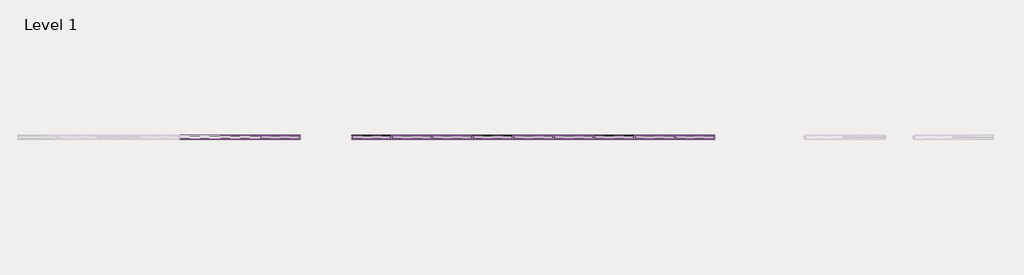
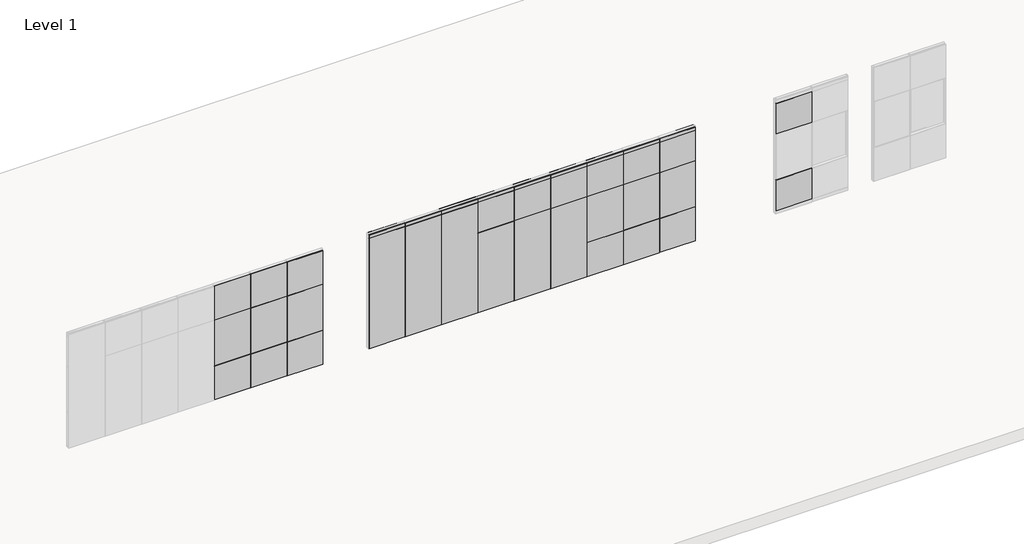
# One storey, part 10 of 22: 107 proxies.
"""IFC4 building model written with IfcOpenShell, lengths in millimetres."""

from ifc_helpers import new_model, si_unit, origin, place, context, project, spatial, transform, mapped, element, save
from components import fascia_teknion_ceiling_and_base_fpb1_3f1045f8, fascia_teknion_ceiling_and_base_fpb1_9cc94717, fascia_teknion_ceiling_and_base_fpb1_fca0640a, fascia_teknion_ceiling_and_base_fpb1_76749516, frame_teknion_horizontal_rail_5872ae1a, frame_teknion_horizontal_rail_46ee653b, level_ii_d92933f0, level_ii_d9937d3a, level_ii_c8f04d20, monolithic_level_i_b876e52f, monolithic_level_i_c985bec4, monolithic_level_i_d7025d32, panel_fascia_teknion_level_i_3c7f3a23, panel_fascia_teknion_level_iii_5cb2406b, segmented_monolithic_level_i_26a9d159, segmented_monolithic_level_i_932c30e3, segmented_level_i_235b6383, segmented_monolithic_level_ii_ef75357c, level_iii_17d9b208, segmented_level_ii_6dac37f0, working_wall_monolithic_level_i_ddfac440, working_wall_monolithic_level_i_759ace73, working_wall_monolithic_level_i_53c92298, working_wall_monolithic_level_i_fab2ca40, level_i_c1e683c6, working_wall_monolithic_level_iii_b79156b4, level_iii_d208549f, level_iii_3557bc1e

model = new_model("IFC4")

# Units and contexts
model_context = context("Model", 3, world=origin())
ifc_project = project(units=[si_unit("LENGTHUNIT", "METRE", prefix="MILLI")], contexts=[model_context])

# Site, building, storey
site = spatial("IfcSite", under=ifc_project)
building = spatial("IfcBuilding", under=site)
storey = spatial("IfcBuildingStorey", under=building, Name="Level 1", Elevation=0.0)

# Proxies
placement = place(None, origin())
fascia_teknion_ceiling_and_base_fpb1_shape = fascia_teknion_ceiling_and_base_fpb1_3f1045f8(model_context)
element("IfcBuildingElementProxy", 1, Name="Fascia-Teknion-Ceiling_and_Base : FPB1", ObjectType="Fascia-Teknion-Ceiling_and_Base : FPB1", at=placement, inside=storey, context=model_context, shape_type="MappedRepresentation", body=[
    mapped(fascia_teknion_ceiling_and_base_fpb1_shape, transform((-26761.682899, 1843.3402105, 15.875), x_axis=(-1.0, 0.0, 0.0), y_axis=(0.0, -1.0, 0.0), z_axis=(0.0, 0.0, 1.0))),
])
element("IfcBuildingElementProxy", 2, Name="Fascia-Teknion-Ceiling_and_Base : FPB1", ObjectType="Fascia-Teknion-Ceiling_and_Base : FPB1", at=placement, inside=storey, context=model_context, shape_type="MappedRepresentation", body=[
    mapped(fascia_teknion_ceiling_and_base_fpb1_shape, transform((-34062.8930552, 1843.3402105, 15.875), x_axis=(-1.0, 0.0, 0.0), y_axis=(0.0, -1.0, 0.0), z_axis=(0.0, 0.0, 1.0))),
])
fascia_teknion_ceiling_and_base_fpb1_2_shape = fascia_teknion_ceiling_and_base_fpb1_9cc94717(model_context)
element("IfcBuildingElementProxy", 3, Name="Fascia-Teknion-Ceiling_and_Base : FPB1", ObjectType="Fascia-Teknion-Ceiling_and_Base : FPB1", at=placement, inside=storey, context=model_context, shape_type="MappedRepresentation", body=[
    mapped(fascia_teknion_ceiling_and_base_fpb1_2_shape, transform((-33155.4879771, 1843.3402105, 15.875), x_axis=(-1.0, 0.0, 0.0), y_axis=(0.0, -1.0, 0.0), z_axis=(0.0, 0.0, 1.0))),
])
element("IfcBuildingElementProxy", 4, Name="Fascia-Teknion-Ceiling_and_Base : FPB1", ObjectType="Fascia-Teknion-Ceiling_and_Base : FPB1", at=placement, inside=storey, context=model_context, shape_type="MappedRepresentation", body=[
    mapped(fascia_teknion_ceiling_and_base_fpb1_2_shape, transform((-32241.0879771, 1843.3402105, 15.875), x_axis=(-1.0, 0.0, 0.0), y_axis=(0.0, -1.0, 0.0), z_axis=(0.0, 0.0, 1.0))),
])
element("IfcBuildingElementProxy", 5, Name="Fascia-Teknion-Ceiling_and_Base : FPB1", ObjectType="Fascia-Teknion-Ceiling_and_Base : FPB1", at=placement, inside=storey, context=model_context, shape_type="MappedRepresentation", body=[
    mapped(fascia_teknion_ceiling_and_base_fpb1_2_shape, transform((-30412.2879771, 1843.3402105, 15.875), x_axis=(-1.0, 0.0, 0.0), y_axis=(0.0, -1.0, 0.0), z_axis=(0.0, 0.0, 1.0))),
])
element("IfcBuildingElementProxy", 6, Name="Fascia-Teknion-Ceiling_and_Base : FPB1", ObjectType="Fascia-Teknion-Ceiling_and_Base : FPB1", at=placement, inside=storey, context=model_context, shape_type="MappedRepresentation", body=[
    mapped(fascia_teknion_ceiling_and_base_fpb1_2_shape, transform((-29497.8879771, 1843.3402105, 15.875), x_axis=(-1.0, 0.0, 0.0), y_axis=(0.0, -1.0, 0.0), z_axis=(0.0, 0.0, 1.0))),
])
element("IfcBuildingElementProxy", 7, Name="Fascia-Teknion-Ceiling_and_Base : FPB1", ObjectType="Fascia-Teknion-Ceiling_and_Base : FPB1", at=placement, inside=storey, context=model_context, shape_type="MappedRepresentation", body=[
    mapped(fascia_teknion_ceiling_and_base_fpb1_2_shape, transform((-27669.0879771, 1843.3402105, 15.875), x_axis=(-1.0, 0.0, 0.0), y_axis=(0.0, -1.0, 0.0), z_axis=(0.0, 0.0, 1.0))),
])
element("IfcBuildingElementProxy", 8, Name="Fascia-Teknion-Ceiling_and_Base : FPB1", ObjectType="Fascia-Teknion-Ceiling_and_Base : FPB1", at=placement, inside=storey, context=model_context, shape_type="MappedRepresentation", body=[
    mapped(fascia_teknion_ceiling_and_base_fpb1_2_shape, transform((-31326.6879771, 1843.3402105, 15.875), x_axis=(-1.0, 0.0, 0.0), y_axis=(0.0, -1.0, 0.0), z_axis=(0.0, 0.0, 1.0))),
])
element("IfcBuildingElementProxy", 9, Name="Fascia-Teknion-Ceiling_and_Base : FPB1", ObjectType="Fascia-Teknion-Ceiling_and_Base : FPB1", at=placement, inside=storey, context=model_context, shape_type="MappedRepresentation", body=[
    mapped(fascia_teknion_ceiling_and_base_fpb1_2_shape, transform((-28583.4879771, 1843.3402105, 15.875), x_axis=(-1.0, 0.0, 0.0), y_axis=(0.0, -1.0, 0.0), z_axis=(0.0, 0.0, 1.0))),
])
fascia_teknion_ceiling_and_base_fpb1_3_shape = fascia_teknion_ceiling_and_base_fpb1_fca0640a(model_context)
element("IfcBuildingElementProxy", 10, Name="Fascia-Teknion-Ceiling_and_Base : FPC", ObjectType="Fascia-Teknion-Ceiling_and_Base : FPC", at=placement, inside=storey, context=model_context, shape_type="MappedRepresentation", body=[
    mapped(fascia_teknion_ceiling_and_base_fpb1_3_shape, transform((-37035.5687444, 1843.3402105, 2950.845), x_axis=(1.0, 0.0, 0.0), y_axis=(0.0, 1.0, 0.0), z_axis=(0.0, 0.0, 1.0))),
])
element("IfcBuildingElementProxy", 11, Name="Fascia-Teknion-Ceiling_and_Base : FPC", ObjectType="Fascia-Teknion-Ceiling_and_Base : FPC", at=placement, inside=storey, context=model_context, shape_type="MappedRepresentation", body=[
    mapped(fascia_teknion_ceiling_and_base_fpb1_2_shape, transform((-31326.6879771, 1781.3642105, 2950.845), x_axis=(1.0, 0.0, 0.0), y_axis=(0.0, 1.0, 0.0), z_axis=(0.0, 0.0, 1.0))),
])
element("IfcBuildingElementProxy", 12, Name="Fascia-Teknion-Ceiling_and_Base : FPC", ObjectType="Fascia-Teknion-Ceiling_and_Base : FPC", at=placement, inside=storey, context=model_context, shape_type="MappedRepresentation", body=[
    mapped(fascia_teknion_ceiling_and_base_fpb1_2_shape, transform((-30412.2879771, 1781.3642105, 2950.845), x_axis=(1.0, 0.0, 0.0), y_axis=(0.0, 1.0, 0.0), z_axis=(0.0, 0.0, 1.0))),
])
element("IfcBuildingElementProxy", 13, Name="Fascia-Teknion-Ceiling_and_Base : FPC", ObjectType="Fascia-Teknion-Ceiling_and_Base : FPC", at=placement, inside=storey, context=model_context, shape_type="MappedRepresentation", body=[
    mapped(fascia_teknion_ceiling_and_base_fpb1_2_shape, transform((-29497.8879771, 1781.3642105, 2950.845), x_axis=(1.0, 0.0, 0.0), y_axis=(0.0, 1.0, 0.0), z_axis=(0.0, 0.0, 1.0))),
])
element("IfcBuildingElementProxy", 14, Name="Fascia-Teknion-Ceiling_and_Base : FPC", ObjectType="Fascia-Teknion-Ceiling_and_Base : FPC", at=placement, inside=storey, context=model_context, shape_type="MappedRepresentation", body=[
    mapped(fascia_teknion_ceiling_and_base_fpb1_2_shape, transform((-28583.4879771, 1781.3642105, 2950.845), x_axis=(1.0, 0.0, 0.0), y_axis=(0.0, 1.0, 0.0), z_axis=(0.0, 0.0, 1.0))),
])
element("IfcBuildingElementProxy", 15, Name="Fascia-Teknion-Ceiling_and_Base : FPC", ObjectType="Fascia-Teknion-Ceiling_and_Base : FPC", at=placement, inside=storey, context=model_context, shape_type="MappedRepresentation", body=[
    mapped(fascia_teknion_ceiling_and_base_fpb1_2_shape, transform((-27669.0879771, 1781.3642105, 2950.845), x_axis=(1.0, 0.0, 0.0), y_axis=(0.0, 1.0, 0.0), z_axis=(0.0, 0.0, 1.0))),
])
element("IfcBuildingElementProxy", 16, Name="Fascia-Teknion-Ceiling_and_Base : FPC", ObjectType="Fascia-Teknion-Ceiling_and_Base : FPC", at=placement, inside=storey, context=model_context, shape_type="MappedRepresentation", body=[
    mapped(fascia_teknion_ceiling_and_base_fpb1_2_shape, transform((-33155.4879771, 1781.3642105, 2950.845), x_axis=(1.0, 0.0, 0.0), y_axis=(0.0, 1.0, 0.0), z_axis=(0.0, 0.0, 1.0))),
])
element("IfcBuildingElementProxy", 17, Name="Fascia-Teknion-Ceiling_and_Base : FPC", ObjectType="Fascia-Teknion-Ceiling_and_Base : FPC", at=placement, inside=storey, context=model_context, shape_type="MappedRepresentation", body=[
    mapped(fascia_teknion_ceiling_and_base_fpb1_2_shape, transform((-32241.0879771, 1781.3642105, 2950.845), x_axis=(1.0, 0.0, 0.0), y_axis=(0.0, 1.0, 0.0), z_axis=(0.0, 0.0, 1.0))),
])
fascia_teknion_ceiling_and_base_fpb1_4_shape = fascia_teknion_ceiling_and_base_fpb1_76749516(model_context)
element("IfcBuildingElementProxy", 18, Name="Fascia-Teknion-Ceiling_and_Base : FPC", ObjectType="Fascia-Teknion-Ceiling_and_Base : FPC", at=placement, inside=storey, context=model_context, shape_type="MappedRepresentation", body=[
    mapped(fascia_teknion_ceiling_and_base_fpb1_4_shape, transform((-36128.1636663, 1843.3402105, 2950.845), x_axis=(1.0, 0.0, 0.0), y_axis=(0.0, 1.0, 0.0), z_axis=(0.0, 0.0, 1.0))),
])
element("IfcBuildingElementProxy", 19, Name="Fascia-Teknion-Ceiling_and_Base : FPC", ObjectType="Fascia-Teknion-Ceiling_and_Base : FPC", at=placement, inside=storey, context=model_context, shape_type="MappedRepresentation", body=[
    mapped(fascia_teknion_ceiling_and_base_fpb1_shape, transform((-26761.682899, 1781.3642105, 2950.845), x_axis=(1.0, 0.0, 0.0), y_axis=(0.0, 1.0, 0.0), z_axis=(0.0, 0.0, 1.0))),
])
element("IfcBuildingElementProxy", 20, Name="Fascia-Teknion-Ceiling_and_Base : FPC", ObjectType="Fascia-Teknion-Ceiling_and_Base : FPC", at=placement, inside=storey, context=model_context, shape_type="MappedRepresentation", body=[
    mapped(fascia_teknion_ceiling_and_base_fpb1_shape, transform((-34062.8930552, 1781.3642105, 2950.845), x_axis=(1.0, 0.0, 0.0), y_axis=(0.0, 1.0, 0.0), z_axis=(0.0, 0.0, 1.0))),
])
frame_teknion_horizontal_rail_shape = frame_teknion_horizontal_rail_5872ae1a(model_context)
element("IfcBuildingElementProxy", 21, Name="Frame-Teknion-Horizontal_Rail : FPKK", ObjectType="Frame-Teknion-Horizontal_Rail : FPKK", at=placement, inside=storey, context=model_context, shape_type="MappedRepresentation", body=[
    mapped(frame_teknion_horizontal_rail_shape, transform((-34062.8930552, 1812.3522105, 100.457), x_axis=(1.0, 0.0, 0.0), y_axis=(0.0, 1.0, 0.0), z_axis=(0.0, 0.0, 1.0))),
])
element("IfcBuildingElementProxy", 22, Name="Frame-Teknion-Horizontal_Rail : FPKK", ObjectType="Frame-Teknion-Horizontal_Rail : FPKK", at=placement, inside=storey, context=model_context, shape_type="MappedRepresentation", body=[
    mapped(frame_teknion_horizontal_rail_shape, transform((-34062.8930552, 1812.3522105, 2949.1305), x_axis=(1.0, 0.0, 0.0), y_axis=(0.0, 1.0, 0.0), z_axis=(0.0, 0.0, 1.0))),
])
element("IfcBuildingElementProxy", 23, Name="Frame-Teknion-Horizontal_Rail : FPKK", ObjectType="Frame-Teknion-Horizontal_Rail : FPKK", at=placement, inside=storey, context=model_context, shape_type="MappedRepresentation", body=[
    mapped(frame_teknion_horizontal_rail_shape, transform((-36128.1636663, 1812.3522105, 917.575), x_axis=(1.0, 0.0, 0.0), y_axis=(0.0, 1.0, 0.0), z_axis=(0.0, 0.0, 1.0))),
])
element("IfcBuildingElementProxy", 24, Name="Frame-Teknion-Horizontal_Rail : FPKK", ObjectType="Frame-Teknion-Horizontal_Rail : FPKK", at=placement, inside=storey, context=model_context, shape_type="MappedRepresentation", body=[
    mapped(frame_teknion_horizontal_rail_shape, transform((-36128.1636663, 1812.3522105, 2136.775), x_axis=(1.0, 0.0, 0.0), y_axis=(0.0, 1.0, 0.0), z_axis=(0.0, 0.0, 1.0))),
])
element("IfcBuildingElementProxy", 25, Name="Frame-Teknion-Horizontal_Rail : FPKK", ObjectType="Frame-Teknion-Horizontal_Rail : FPKK", at=placement, inside=storey, context=model_context, shape_type="MappedRepresentation", body=[
    mapped(frame_teknion_horizontal_rail_shape, transform((-36128.1636663, 1812.3522105, 2949.1305), x_axis=(1.0, 0.0, 0.0), y_axis=(0.0, 1.0, 0.0), z_axis=(0.0, 0.0, 1.0))),
])
element("IfcBuildingElementProxy", 26, Name="Frame-Teknion-Horizontal_Rail : FPKK", ObjectType="Frame-Teknion-Horizontal_Rail : FPKK", at=placement, inside=storey, context=model_context, shape_type="MappedRepresentation", body=[
    mapped(frame_teknion_horizontal_rail_shape, transform((-26761.682899, 1812.3522105, 917.575), x_axis=(1.0, 0.0, 0.0), y_axis=(0.0, 1.0, 0.0), z_axis=(0.0, 0.0, 1.0))),
])
element("IfcBuildingElementProxy", 27, Name="Frame-Teknion-Horizontal_Rail : FPKK", ObjectType="Frame-Teknion-Horizontal_Rail : FPKK", at=placement, inside=storey, context=model_context, shape_type="MappedRepresentation", body=[
    mapped(frame_teknion_horizontal_rail_shape, transform((-26761.682899, 1812.3522105, 2136.775), x_axis=(1.0, 0.0, 0.0), y_axis=(0.0, 1.0, 0.0), z_axis=(0.0, 0.0, 1.0))),
])
element("IfcBuildingElementProxy", 28, Name="Frame-Teknion-Horizontal_Rail : FPKK", ObjectType="Frame-Teknion-Horizontal_Rail : FPKK", at=placement, inside=storey, context=model_context, shape_type="MappedRepresentation", body=[
    mapped(frame_teknion_horizontal_rail_shape, transform((-26761.682899, 1812.3522105, 100.457), x_axis=(1.0, 0.0, 0.0), y_axis=(0.0, 1.0, 0.0), z_axis=(0.0, 0.0, 1.0))),
])
element("IfcBuildingElementProxy", 29, Name="Frame-Teknion-Horizontal_Rail : FPKK", ObjectType="Frame-Teknion-Horizontal_Rail : FPKK", at=placement, inside=storey, context=model_context, shape_type="MappedRepresentation", body=[
    mapped(frame_teknion_horizontal_rail_shape, transform((-26761.682899, 1812.3522105, 2949.1305), x_axis=(1.0, 0.0, 0.0), y_axis=(0.0, 1.0, 0.0), z_axis=(0.0, 0.0, 1.0))),
])
frame_teknion_horizontal_rail_2_shape = frame_teknion_horizontal_rail_46ee653b(model_context)
element("IfcBuildingElementProxy", 30, Name="Frame-Teknion-Horizontal_Rail : FPKK", ObjectType="Frame-Teknion-Horizontal_Rail : FPKK", at=placement, inside=storey, context=model_context, shape_type="MappedRepresentation", body=[
    mapped(frame_teknion_horizontal_rail_2_shape, transform((-33155.4879771, 1812.3522105, 2136.775), x_axis=(1.0, 0.0, 0.0), y_axis=(0.0, 1.0, 0.0), z_axis=(0.0, 0.0, 1.0))),
])
element("IfcBuildingElementProxy", 31, Name="Frame-Teknion-Horizontal_Rail : FPKK", ObjectType="Frame-Teknion-Horizontal_Rail : FPKK", at=placement, inside=storey, context=model_context, shape_type="MappedRepresentation", body=[
    mapped(frame_teknion_horizontal_rail_2_shape, transform((-33155.4879771, 1812.3522105, 100.457), x_axis=(1.0, 0.0, 0.0), y_axis=(0.0, 1.0, 0.0), z_axis=(0.0, 0.0, 1.0))),
])
element("IfcBuildingElementProxy", 32, Name="Frame-Teknion-Horizontal_Rail : FPKK", ObjectType="Frame-Teknion-Horizontal_Rail : FPKK", at=placement, inside=storey, context=model_context, shape_type="MappedRepresentation", body=[
    mapped(frame_teknion_horizontal_rail_2_shape, transform((-33155.4879771, 1812.3522105, 2949.1305), x_axis=(1.0, 0.0, 0.0), y_axis=(0.0, 1.0, 0.0), z_axis=(0.0, 0.0, 1.0))),
])
element("IfcBuildingElementProxy", 33, Name="Frame-Teknion-Horizontal_Rail : FPKK", ObjectType="Frame-Teknion-Horizontal_Rail : FPKK", at=placement, inside=storey, context=model_context, shape_type="MappedRepresentation", body=[
    mapped(frame_teknion_horizontal_rail_2_shape, transform((-32241.0879771, 1812.3522105, 917.575), x_axis=(1.0, 0.0, 0.0), y_axis=(0.0, 1.0, 0.0), z_axis=(0.0, 0.0, 1.0))),
])
element("IfcBuildingElementProxy", 34, Name="Frame-Teknion-Horizontal_Rail : FPKK", ObjectType="Frame-Teknion-Horizontal_Rail : FPKK", at=placement, inside=storey, context=model_context, shape_type="MappedRepresentation", body=[
    mapped(frame_teknion_horizontal_rail_2_shape, transform((-32241.0879771, 1812.3522105, 2136.775), x_axis=(1.0, 0.0, 0.0), y_axis=(0.0, 1.0, 0.0), z_axis=(0.0, 0.0, 1.0))),
])
element("IfcBuildingElementProxy", 35, Name="Frame-Teknion-Horizontal_Rail : FPKK", ObjectType="Frame-Teknion-Horizontal_Rail : FPKK", at=placement, inside=storey, context=model_context, shape_type="MappedRepresentation", body=[
    mapped(frame_teknion_horizontal_rail_2_shape, transform((-32241.0879771, 1812.3522105, 100.457), x_axis=(1.0, 0.0, 0.0), y_axis=(0.0, 1.0, 0.0), z_axis=(0.0, 0.0, 1.0))),
])
element("IfcBuildingElementProxy", 36, Name="Frame-Teknion-Horizontal_Rail : FPKK", ObjectType="Frame-Teknion-Horizontal_Rail : FPKK", at=placement, inside=storey, context=model_context, shape_type="MappedRepresentation", body=[
    mapped(frame_teknion_horizontal_rail_2_shape, transform((-32241.0879771, 1812.3522105, 2949.1305), x_axis=(1.0, 0.0, 0.0), y_axis=(0.0, 1.0, 0.0), z_axis=(0.0, 0.0, 1.0))),
])
element("IfcBuildingElementProxy", 37, Name="Frame-Teknion-Horizontal_Rail : FPKK", ObjectType="Frame-Teknion-Horizontal_Rail : FPKK", at=placement, inside=storey, context=model_context, shape_type="MappedRepresentation", body=[
    mapped(frame_teknion_horizontal_rail_2_shape, transform((-31326.6879771, 1812.3522105, 2136.775), x_axis=(1.0, 0.0, 0.0), y_axis=(0.0, 1.0, 0.0), z_axis=(0.0, 0.0, 1.0))),
])
element("IfcBuildingElementProxy", 38, Name="Frame-Teknion-Horizontal_Rail : FPKK", ObjectType="Frame-Teknion-Horizontal_Rail : FPKK", at=placement, inside=storey, context=model_context, shape_type="MappedRepresentation", body=[
    mapped(frame_teknion_horizontal_rail_2_shape, transform((-31326.6879771, 1812.3522105, 100.457), x_axis=(1.0, 0.0, 0.0), y_axis=(0.0, 1.0, 0.0), z_axis=(0.0, 0.0, 1.0))),
])
element("IfcBuildingElementProxy", 39, Name="Frame-Teknion-Horizontal_Rail : FPKK", ObjectType="Frame-Teknion-Horizontal_Rail : FPKK", at=placement, inside=storey, context=model_context, shape_type="MappedRepresentation", body=[
    mapped(frame_teknion_horizontal_rail_2_shape, transform((-31326.6879771, 1812.3522105, 2949.1305), x_axis=(1.0, 0.0, 0.0), y_axis=(0.0, 1.0, 0.0), z_axis=(0.0, 0.0, 1.0))),
])
element("IfcBuildingElementProxy", 40, Name="Frame-Teknion-Horizontal_Rail : FPKK", ObjectType="Frame-Teknion-Horizontal_Rail : FPKK", at=placement, inside=storey, context=model_context, shape_type="MappedRepresentation", body=[
    mapped(frame_teknion_horizontal_rail_2_shape, transform((-30412.2879771, 1812.3522105, 2136.775), x_axis=(1.0, 0.0, 0.0), y_axis=(0.0, 1.0, 0.0), z_axis=(0.0, 0.0, 1.0))),
])
element("IfcBuildingElementProxy", 41, Name="Frame-Teknion-Horizontal_Rail : FPKK", ObjectType="Frame-Teknion-Horizontal_Rail : FPKK", at=placement, inside=storey, context=model_context, shape_type="MappedRepresentation", body=[
    mapped(frame_teknion_horizontal_rail_2_shape, transform((-30412.2879771, 1812.3522105, 100.457), x_axis=(1.0, 0.0, 0.0), y_axis=(0.0, 1.0, 0.0), z_axis=(0.0, 0.0, 1.0))),
])
element("IfcBuildingElementProxy", 42, Name="Frame-Teknion-Horizontal_Rail : FPKK", ObjectType="Frame-Teknion-Horizontal_Rail : FPKK", at=placement, inside=storey, context=model_context, shape_type="MappedRepresentation", body=[
    mapped(frame_teknion_horizontal_rail_2_shape, transform((-30412.2879771, 1812.3522105, 2949.1305), x_axis=(1.0, 0.0, 0.0), y_axis=(0.0, 1.0, 0.0), z_axis=(0.0, 0.0, 1.0))),
])
element("IfcBuildingElementProxy", 43, Name="Frame-Teknion-Horizontal_Rail : FPKK", ObjectType="Frame-Teknion-Horizontal_Rail : FPKK", at=placement, inside=storey, context=model_context, shape_type="MappedRepresentation", body=[
    mapped(frame_teknion_horizontal_rail_2_shape, transform((-29497.8879771, 1812.3522105, 917.575), x_axis=(1.0, 0.0, 0.0), y_axis=(0.0, 1.0, 0.0), z_axis=(0.0, 0.0, 1.0))),
])
element("IfcBuildingElementProxy", 44, Name="Frame-Teknion-Horizontal_Rail : FPKK", ObjectType="Frame-Teknion-Horizontal_Rail : FPKK", at=placement, inside=storey, context=model_context, shape_type="MappedRepresentation", body=[
    mapped(frame_teknion_horizontal_rail_2_shape, transform((-29497.8879771, 1812.3522105, 2136.775), x_axis=(1.0, 0.0, 0.0), y_axis=(0.0, 1.0, 0.0), z_axis=(0.0, 0.0, 1.0))),
])
element("IfcBuildingElementProxy", 45, Name="Frame-Teknion-Horizontal_Rail : FPKK", ObjectType="Frame-Teknion-Horizontal_Rail : FPKK", at=placement, inside=storey, context=model_context, shape_type="MappedRepresentation", body=[
    mapped(frame_teknion_horizontal_rail_2_shape, transform((-29497.8879771, 1812.3522105, 100.457), x_axis=(1.0, 0.0, 0.0), y_axis=(0.0, 1.0, 0.0), z_axis=(0.0, 0.0, 1.0))),
])
element("IfcBuildingElementProxy", 46, Name="Frame-Teknion-Horizontal_Rail : FPKK", ObjectType="Frame-Teknion-Horizontal_Rail : FPKK", at=placement, inside=storey, context=model_context, shape_type="MappedRepresentation", body=[
    mapped(frame_teknion_horizontal_rail_2_shape, transform((-29497.8879771, 1812.3522105, 2949.1305), x_axis=(1.0, 0.0, 0.0), y_axis=(0.0, 1.0, 0.0), z_axis=(0.0, 0.0, 1.0))),
])
element("IfcBuildingElementProxy", 47, Name="Frame-Teknion-Horizontal_Rail : FPKK", ObjectType="Frame-Teknion-Horizontal_Rail : FPKK", at=placement, inside=storey, context=model_context, shape_type="MappedRepresentation", body=[
    mapped(frame_teknion_horizontal_rail_2_shape, transform((-28583.4879771, 1812.3522105, 917.575), x_axis=(1.0, 0.0, 0.0), y_axis=(0.0, 1.0, 0.0), z_axis=(0.0, 0.0, 1.0))),
])
element("IfcBuildingElementProxy", 48, Name="Frame-Teknion-Horizontal_Rail : FPKK", ObjectType="Frame-Teknion-Horizontal_Rail : FPKK", at=placement, inside=storey, context=model_context, shape_type="MappedRepresentation", body=[
    mapped(frame_teknion_horizontal_rail_2_shape, transform((-28583.4879771, 1812.3522105, 2136.775), x_axis=(1.0, 0.0, 0.0), y_axis=(0.0, 1.0, 0.0), z_axis=(0.0, 0.0, 1.0))),
])
element("IfcBuildingElementProxy", 49, Name="Frame-Teknion-Horizontal_Rail : FPKK", ObjectType="Frame-Teknion-Horizontal_Rail : FPKK", at=placement, inside=storey, context=model_context, shape_type="MappedRepresentation", body=[
    mapped(frame_teknion_horizontal_rail_2_shape, transform((-28583.4879771, 1812.3522105, 100.457), x_axis=(1.0, 0.0, 0.0), y_axis=(0.0, 1.0, 0.0), z_axis=(0.0, 0.0, 1.0))),
])
element("IfcBuildingElementProxy", 50, Name="Frame-Teknion-Horizontal_Rail : FPKK", ObjectType="Frame-Teknion-Horizontal_Rail : FPKK", at=placement, inside=storey, context=model_context, shape_type="MappedRepresentation", body=[
    mapped(frame_teknion_horizontal_rail_2_shape, transform((-28583.4879771, 1812.3522105, 2949.1305), x_axis=(1.0, 0.0, 0.0), y_axis=(0.0, 1.0, 0.0), z_axis=(0.0, 0.0, 1.0))),
])
element("IfcBuildingElementProxy", 51, Name="Frame-Teknion-Horizontal_Rail : FPKK", ObjectType="Frame-Teknion-Horizontal_Rail : FPKK", at=placement, inside=storey, context=model_context, shape_type="MappedRepresentation", body=[
    mapped(frame_teknion_horizontal_rail_2_shape, transform((-27669.0879771, 1812.3522105, 917.575), x_axis=(1.0, 0.0, 0.0), y_axis=(0.0, 1.0, 0.0), z_axis=(0.0, 0.0, 1.0))),
])
element("IfcBuildingElementProxy", 52, Name="Frame-Teknion-Horizontal_Rail : FPKK", ObjectType="Frame-Teknion-Horizontal_Rail : FPKK", at=placement, inside=storey, context=model_context, shape_type="MappedRepresentation", body=[
    mapped(frame_teknion_horizontal_rail_2_shape, transform((-27669.0879771, 1812.3522105, 2136.775), x_axis=(1.0, 0.0, 0.0), y_axis=(0.0, 1.0, 0.0), z_axis=(0.0, 0.0, 1.0))),
])
element("IfcBuildingElementProxy", 53, Name="Frame-Teknion-Horizontal_Rail : FPKK", ObjectType="Frame-Teknion-Horizontal_Rail : FPKK", at=placement, inside=storey, context=model_context, shape_type="MappedRepresentation", body=[
    mapped(frame_teknion_horizontal_rail_2_shape, transform((-27669.0879771, 1812.3522105, 100.457), x_axis=(1.0, 0.0, 0.0), y_axis=(0.0, 1.0, 0.0), z_axis=(0.0, 0.0, 1.0))),
])
element("IfcBuildingElementProxy", 54, Name="Frame-Teknion-Horizontal_Rail : FPKK", ObjectType="Frame-Teknion-Horizontal_Rail : FPKK", at=placement, inside=storey, context=model_context, shape_type="MappedRepresentation", body=[
    mapped(frame_teknion_horizontal_rail_2_shape, transform((-27669.0879771, 1812.3522105, 2949.1305), x_axis=(1.0, 0.0, 0.0), y_axis=(0.0, 1.0, 0.0), z_axis=(0.0, 0.0, 1.0))),
])
level_ii_shape = level_ii_d92933f0(model_context)
element("IfcBuildingElementProxy", 55, Name="Panel-Fascia-Teknion-Altos-Standard : Level II", ObjectType="Panel-Fascia-Teknion-Altos-Standard : Level II", at=placement, inside=storey, context=model_context, shape_type="MappedRepresentation", body=[
    mapped(level_ii_shape, transform((-36128.1636663, 1852.8652105, 917.575), x_axis=(1.0, 0.0, 0.0), y_axis=(0.0, 1.0, 0.0), z_axis=(0.0, 0.0, 1.0))),
])
level_ii_2_shape = level_ii_d9937d3a(model_context)
element("IfcBuildingElementProxy", 56, Name="Panel-Fascia-Teknion-Altos-Standard : Level II", ObjectType="Panel-Fascia-Teknion-Altos-Standard : Level II", at=placement, inside=storey, context=model_context, shape_type="MappedRepresentation", body=[
    mapped(level_ii_2_shape, transform((-36128.1636663, 1771.8392105, 917.575), x_axis=(1.0, 0.0, 0.0), y_axis=(0.0, 1.0, 0.0), z_axis=(0.0, 0.0, 1.0))),
])
element("IfcBuildingElementProxy", 57, Name="Panel-Fascia-Teknion-Altos-Standard : Level II", ObjectType="Panel-Fascia-Teknion-Altos-Standard : Level II", at=placement, inside=storey, context=model_context, shape_type="MappedRepresentation", body=[
    mapped(level_ii_2_shape, transform((-26761.682899, 1771.8392105, 917.575), x_axis=(1.0, 0.0, 0.0), y_axis=(0.0, 1.0, 0.0), z_axis=(0.0, 0.0, 1.0))),
])
element("IfcBuildingElementProxy", 58, Name="Panel-Fascia-Teknion-Altos-Standard : Level II", ObjectType="Panel-Fascia-Teknion-Altos-Standard : Level II", at=placement, inside=storey, context=model_context, shape_type="MappedRepresentation", body=[
    mapped(level_ii_2_shape, transform((-26761.682899, 1852.8652105, 917.575), x_axis=(-1.0, 0.0, 0.0), y_axis=(0.0, -1.0, 0.0), z_axis=(0.0, 0.0, 1.0))),
])
level_ii_3_shape = level_ii_c8f04d20(model_context)
element("IfcBuildingElementProxy", 59, Name="Panel-Fascia-Teknion-Altos-Standard : Level II", ObjectType="Panel-Fascia-Teknion-Altos-Standard : Level II", at=placement, inside=storey, context=model_context, shape_type="MappedRepresentation", body=[
    mapped(level_ii_3_shape, transform((-37035.5687444, 1771.8392105, 917.575), x_axis=(1.0, 0.0, 0.0), y_axis=(0.0, 1.0, 0.0), z_axis=(0.0, 0.0, 1.0))),
])
element("IfcBuildingElementProxy", 60, Name="Panel-Fascia-Teknion-Altos-Standard : Level II", ObjectType="Panel-Fascia-Teknion-Altos-Standard : Level II", at=placement, inside=storey, context=model_context, shape_type="MappedRepresentation", body=[
    mapped(level_ii_3_shape, transform((-27669.0879771, 1771.8392105, 917.575), x_axis=(1.0, 0.0, 0.0), y_axis=(0.0, 1.0, 0.0), z_axis=(0.0, 0.0, 1.0))),
])
element("IfcBuildingElementProxy", 61, Name="Panel-Fascia-Teknion-Altos-Standard : Level II", ObjectType="Panel-Fascia-Teknion-Altos-Standard : Level II", at=placement, inside=storey, context=model_context, shape_type="MappedRepresentation", body=[
    mapped(level_ii_3_shape, transform((-37949.9687444, 1771.8392105, 917.575), x_axis=(1.0, 0.0, 0.0), y_axis=(0.0, 1.0, 0.0), z_axis=(0.0, 0.0, 1.0))),
])
element("IfcBuildingElementProxy", 62, Name="Panel-Fascia-Teknion-Altos-Standard : Level II", ObjectType="Panel-Fascia-Teknion-Altos-Standard : Level II", at=placement, inside=storey, context=model_context, shape_type="MappedRepresentation", body=[
    mapped(level_ii_3_shape, transform((-32241.0879771, 1852.8652105, 917.575), x_axis=(-1.0, 0.0, 0.0), y_axis=(0.0, -1.0, 0.0), z_axis=(0.0, 0.0, 1.0))),
])
element("IfcBuildingElementProxy", 63, Name="Panel-Fascia-Teknion-Altos-Standard : Level II", ObjectType="Panel-Fascia-Teknion-Altos-Standard : Level II", at=placement, inside=storey, context=model_context, shape_type="MappedRepresentation", body=[
    mapped(level_ii_3_shape, transform((-29497.8879771, 1852.8652105, 917.575), x_axis=(-1.0, 0.0, 0.0), y_axis=(0.0, -1.0, 0.0), z_axis=(0.0, 0.0, 1.0))),
])
element("IfcBuildingElementProxy", 64, Name="Panel-Fascia-Teknion-Altos-Standard : Level II", ObjectType="Panel-Fascia-Teknion-Altos-Standard : Level II", at=placement, inside=storey, context=model_context, shape_type="MappedRepresentation", body=[
    mapped(level_ii_3_shape, transform((-28583.4879771, 1771.8392105, 917.575), x_axis=(1.0, 0.0, 0.0), y_axis=(0.0, 1.0, 0.0), z_axis=(0.0, 0.0, 1.0))),
])
monolithic_level_i_shape = monolithic_level_i_b876e52f(model_context)
element("IfcBuildingElementProxy", 65, Name="Panel-Fascia-Teknion-Altos-Standard : Monolithic Level I", ObjectType="Panel-Fascia-Teknion-Altos-Standard : Monolithic Level I", at=placement, inside=storey, context=model_context, shape_type="MappedRepresentation", body=[
    mapped(monolithic_level_i_shape, transform((-37949.9687444, 1852.8652105, 12.7), x_axis=(1.0, 0.0, 0.0), y_axis=(0.0, 1.0, 0.0), z_axis=(0.0, 0.0, 1.0))),
])
monolithic_level_i_2_shape = monolithic_level_i_c985bec4(model_context)
element("IfcBuildingElementProxy", 66, Name="Panel-Fascia-Teknion-Altos-Standard : Monolithic Level I", ObjectType="Panel-Fascia-Teknion-Altos-Standard : Monolithic Level I", at=placement, inside=storey, context=model_context, shape_type="MappedRepresentation", body=[
    mapped(monolithic_level_i_2_shape, transform((-34062.8930552, 1771.8392105, 12.7), x_axis=(1.0, 0.0, 0.0), y_axis=(0.0, 1.0, 0.0), z_axis=(0.0, 0.0, 1.0))),
])
element("IfcBuildingElementProxy", 67, Name="Panel-Fascia-Teknion-Altos-Standard : Monolithic Level I", ObjectType="Panel-Fascia-Teknion-Altos-Standard : Monolithic Level I", at=placement, inside=storey, context=model_context, shape_type="MappedRepresentation", body=[
    mapped(monolithic_level_i_2_shape, transform((-34062.8930552, 1852.8652105, 100.457), x_axis=(-1.0, 0.0, 0.0), y_axis=(0.0, -1.0, 0.0), z_axis=(0.0, 0.0, 1.0))),
])
monolithic_level_i_3_shape = monolithic_level_i_d7025d32(model_context)
element("IfcBuildingElementProxy", 68, Name="Panel-Fascia-Teknion-Altos-Standard : Monolithic Level I", ObjectType="Panel-Fascia-Teknion-Altos-Standard : Monolithic Level I", at=placement, inside=storey, context=model_context, shape_type="MappedRepresentation", body=[
    mapped(monolithic_level_i_3_shape, transform((-33155.4879771, 1771.8392105, 12.7), x_axis=(1.0, 0.0, 0.0), y_axis=(0.0, 1.0, 0.0), z_axis=(0.0, 0.0, 1.0))),
])
element("IfcBuildingElementProxy", 69, Name="Panel-Fascia-Teknion-Altos-Standard : Monolithic Level I", ObjectType="Panel-Fascia-Teknion-Altos-Standard : Monolithic Level I", at=placement, inside=storey, context=model_context, shape_type="MappedRepresentation", body=[
    mapped(monolithic_level_i_3_shape, transform((-32241.0879771, 1771.8392105, 12.7), x_axis=(1.0, 0.0, 0.0), y_axis=(0.0, 1.0, 0.0), z_axis=(0.0, 0.0, 1.0))),
])
element("IfcBuildingElementProxy", 70, Name="Panel-Fascia-Teknion-Altos-Standard : Monolithic Level I", ObjectType="Panel-Fascia-Teknion-Altos-Standard : Monolithic Level I", at=placement, inside=storey, context=model_context, shape_type="MappedRepresentation", body=[
    mapped(monolithic_level_i_3_shape, transform((-31326.6879771, 1852.8652105, 100.457), x_axis=(-1.0, 0.0, 0.0), y_axis=(0.0, -1.0, 0.0), z_axis=(0.0, 0.0, 1.0))),
])
element("IfcBuildingElementProxy", 71, Name="Panel-Fascia-Teknion-Altos-Standard : Monolithic Level I", ObjectType="Panel-Fascia-Teknion-Altos-Standard : Monolithic Level I", at=placement, inside=storey, context=model_context, shape_type="MappedRepresentation", body=[
    mapped(monolithic_level_i_3_shape, transform((-28583.4879771, 1852.8652105, 100.457), x_axis=(-1.0, 0.0, 0.0), y_axis=(0.0, -1.0, 0.0), z_axis=(0.0, 0.0, 1.0))),
])
panel_fascia_teknion_level_i_shape = panel_fascia_teknion_level_i_3c7f3a23(model_context)
element("IfcBuildingElementProxy", 72, Name="Panel-Fascia-Teknion : Level I", ObjectType="Panel-Fascia-Teknion : Level I", at=placement, inside=storey, context=model_context, shape_type="MappedRepresentation", body=[
    mapped(panel_fascia_teknion_level_i_shape, transform((-23828.6184902, 1771.869815, 100.457), x_axis=(1.0, 0.0, 0.0), y_axis=(0.0, 1.0, 0.0), z_axis=(0.0, 0.0, 1.0))),
])
panel_fascia_teknion_level_iii_shape = panel_fascia_teknion_level_iii_5cb2406b(model_context)
element("IfcBuildingElementProxy", 73, Name="Panel-Fascia-Teknion : Level III", ObjectType="Panel-Fascia-Teknion : Level III", at=placement, inside=storey, context=model_context, shape_type="MappedRepresentation", body=[
    mapped(panel_fascia_teknion_level_iii_shape, transform((-23828.6184902, 1771.869815, 2136.775), x_axis=(1.0, 0.0, 0.0), y_axis=(0.0, 1.0, 0.0), z_axis=(0.0, 0.0, 1.0))),
])
segmented_monolithic_level_i_shape = segmented_monolithic_level_i_26a9d159(model_context)
element("IfcBuildingElementProxy", 74, Name="Panel-Fascia-Teknion-Altos-Standard : Segmented Monolithic Level I", ObjectType="Panel-Fascia-Teknion-Altos-Standard : Segmented Monolithic Level I", at=placement, inside=storey, context=model_context, shape_type="MappedRepresentation", body=[
    mapped(segmented_monolithic_level_i_shape, transform((-30412.2879771, 1771.8392105, 12.7), x_axis=(1.0, 0.0, 0.0), y_axis=(0.0, 1.0, 0.0), z_axis=(0.0, 0.0, 1.0))),
])
element("IfcBuildingElementProxy", 75, Name="Panel-Fascia-Teknion-Altos-Standard : Segmented Monolithic Level I", ObjectType="Panel-Fascia-Teknion-Altos-Standard : Segmented Monolithic Level I", at=placement, inside=storey, context=model_context, shape_type="MappedRepresentation", body=[
    mapped(segmented_monolithic_level_i_shape, transform((-29497.8879771, 1771.8392105, 12.7), x_axis=(1.0, 0.0, 0.0), y_axis=(0.0, 1.0, 0.0), z_axis=(0.0, 0.0, 1.0))),
])
element("IfcBuildingElementProxy", 76, Name="Panel-Fascia-Teknion-Altos-Standard : Segmented Monolithic Level I", ObjectType="Panel-Fascia-Teknion-Altos-Standard : Segmented Monolithic Level I", at=placement, inside=storey, context=model_context, shape_type="MappedRepresentation", body=[
    mapped(segmented_monolithic_level_i_shape, transform((-31326.6879771, 1771.8392105, 12.7), x_axis=(1.0, 0.0, 0.0), y_axis=(0.0, 1.0, 0.0), z_axis=(0.0, 0.0, 1.0))),
])
segmented_monolithic_level_i_2_shape = segmented_monolithic_level_i_932c30e3(model_context)
element("IfcBuildingElementProxy", 77, Name="Panel-Fascia-Teknion-Altos-Standard : Segmented Monolithic Level I", ObjectType="Panel-Fascia-Teknion-Altos-Standard : Segmented Monolithic Level I", at=placement, inside=storey, context=model_context, shape_type="MappedRepresentation", body=[
    mapped(segmented_monolithic_level_i_2_shape, transform((-37035.5687444, 1852.8652105, 12.7), x_axis=(1.0, 0.0, 0.0), y_axis=(0.0, 1.0, 0.0), z_axis=(0.0, 0.0, 1.0))),
])
segmented_level_i_shape = segmented_level_i_235b6383(model_context)
element("IfcBuildingElementProxy", 78, Name="Panel-Fascia-Teknion-Altos-Standard : Segmented Monolithic Level I", ObjectType="Panel-Fascia-Teknion-Altos-Standard : Segmented Monolithic Level I", at=placement, inside=storey, context=model_context, shape_type="MappedRepresentation", body=[
    mapped(segmented_level_i_shape, transform((-33155.4879771, 1852.8652105, 100.457), x_axis=(-1.0, 0.0, 0.0), y_axis=(0.0, -1.0, 0.0), z_axis=(0.0, 0.0, 1.0))),
])
element("IfcBuildingElementProxy", 79, Name="Panel-Fascia-Teknion-Altos-Standard : Segmented Monolithic Level I", ObjectType="Panel-Fascia-Teknion-Altos-Standard : Segmented Monolithic Level I", at=placement, inside=storey, context=model_context, shape_type="MappedRepresentation", body=[
    mapped(segmented_level_i_shape, transform((-30412.2879771, 1852.8652105, 100.457), x_axis=(-1.0, 0.0, 0.0), y_axis=(0.0, -1.0, 0.0), z_axis=(0.0, 0.0, 1.0))),
])
element("IfcBuildingElementProxy", 80, Name="Panel-Fascia-Teknion-Altos-Standard : Segmented Monolithic Level I", ObjectType="Panel-Fascia-Teknion-Altos-Standard : Segmented Monolithic Level I", at=placement, inside=storey, context=model_context, shape_type="MappedRepresentation", body=[
    mapped(segmented_level_i_shape, transform((-27669.0879771, 1852.8652105, 100.457), x_axis=(-1.0, 0.0, 0.0), y_axis=(0.0, -1.0, 0.0), z_axis=(0.0, 0.0, 1.0))),
])
segmented_monolithic_level_ii_shape = segmented_monolithic_level_ii_ef75357c(model_context)
element("IfcBuildingElementProxy", 81, Name="Panel-Fascia-Teknion-Altos-Standard : Segmented Monolithic Level II", ObjectType="Panel-Fascia-Teknion-Altos-Standard : Segmented Monolithic Level II", at=placement, inside=storey, context=model_context, shape_type="MappedRepresentation", body=[
    mapped(segmented_monolithic_level_ii_shape, transform((-33155.4879771, 1852.8652105, 2136.775), x_axis=(-1.0, 0.0, 0.0), y_axis=(0.0, -1.0, 0.0), z_axis=(0.0, 0.0, 1.0))),
])
element("IfcBuildingElementProxy", 82, Name="Panel-Fascia-Teknion-Altos-Standard : Segmented Monolithic Level II", ObjectType="Panel-Fascia-Teknion-Altos-Standard : Segmented Monolithic Level II", at=placement, inside=storey, context=model_context, shape_type="MappedRepresentation", body=[
    mapped(segmented_monolithic_level_ii_shape, transform((-30412.2879771, 1852.8652105, 2136.775), x_axis=(-1.0, 0.0, 0.0), y_axis=(0.0, -1.0, 0.0), z_axis=(0.0, 0.0, 1.0))),
])
element("IfcBuildingElementProxy", 83, Name="Panel-Fascia-Teknion-Altos-Standard : Segmented Monolithic Level II", ObjectType="Panel-Fascia-Teknion-Altos-Standard : Segmented Monolithic Level II", at=placement, inside=storey, context=model_context, shape_type="MappedRepresentation", body=[
    mapped(segmented_monolithic_level_ii_shape, transform((-27669.0879771, 1852.8652105, 2136.775), x_axis=(-1.0, 0.0, 0.0), y_axis=(0.0, -1.0, 0.0), z_axis=(0.0, 0.0, 1.0))),
])
level_iii_shape = level_iii_17d9b208(model_context)
element("IfcBuildingElementProxy", 84, Name="Panel-Fascia-Teknion-Altos-Standard : Segmented Monolithic Level II", ObjectType="Panel-Fascia-Teknion-Altos-Standard : Segmented Monolithic Level II", at=placement, inside=storey, context=model_context, shape_type="MappedRepresentation", body=[
    mapped(level_iii_shape, transform((-37035.5687444, 1852.8652105, 2136.775), x_axis=(1.0, 0.0, 0.0), y_axis=(0.0, 1.0, 0.0), z_axis=(0.0, 0.0, 1.0))),
])
segmented_level_ii_shape = segmented_level_ii_6dac37f0(model_context)
element("IfcBuildingElementProxy", 85, Name="Panel-Fascia-Teknion-Altos-Standard : Segmented Monolithic Level II", ObjectType="Panel-Fascia-Teknion-Altos-Standard : Segmented Monolithic Level II", at=placement, inside=storey, context=model_context, shape_type="MappedRepresentation", body=[
    mapped(segmented_level_ii_shape, transform((-29497.8879771, 1771.8392105, 2136.775), x_axis=(1.0, 0.0, 0.0), y_axis=(0.0, 1.0, 0.0), z_axis=(0.0, 0.0, 1.0))),
])
element("IfcBuildingElementProxy", 86, Name="Panel-Fascia-Teknion-Altos-Standard : Segmented Monolithic Level II", ObjectType="Panel-Fascia-Teknion-Altos-Standard : Segmented Monolithic Level II", at=placement, inside=storey, context=model_context, shape_type="MappedRepresentation", body=[
    mapped(segmented_level_ii_shape, transform((-31326.6879771, 1771.8392105, 2136.775), x_axis=(1.0, 0.0, 0.0), y_axis=(0.0, 1.0, 0.0), z_axis=(0.0, 0.0, 1.0))),
])
element("IfcBuildingElementProxy", 87, Name="Panel-Fascia-Teknion-Altos-Standard : Segmented Monolithic Level II", ObjectType="Panel-Fascia-Teknion-Altos-Standard : Segmented Monolithic Level II", at=placement, inside=storey, context=model_context, shape_type="MappedRepresentation", body=[
    mapped(segmented_level_ii_shape, transform((-30412.2879771, 1771.8392105, 2136.775), x_axis=(1.0, 0.0, 0.0), y_axis=(0.0, 1.0, 0.0), z_axis=(0.0, 0.0, 1.0))),
])
working_wall_monolithic_level_i_shape = working_wall_monolithic_level_i_ddfac440(model_context)
element("IfcBuildingElementProxy", 88, Name="Panel-Fascia-Teknion-Altos-Standard : Working Wall Monolithic Level I", ObjectType="Panel-Fascia-Teknion-Altos-Standard : Working Wall Monolithic Level I", at=placement, inside=storey, context=model_context, shape_type="MappedRepresentation", body=[
    mapped(working_wall_monolithic_level_i_shape, transform((-37035.5687444, 1771.8392105, 12.7), x_axis=(1.0, 0.0, 0.0), y_axis=(0.0, 1.0, 0.0), z_axis=(0.0, 0.0, 1.0))),
])
element("IfcBuildingElementProxy", 89, Name="Panel-Fascia-Teknion-Altos-Standard : Working Wall Monolithic Level I", ObjectType="Panel-Fascia-Teknion-Altos-Standard : Working Wall Monolithic Level I", at=placement, inside=storey, context=model_context, shape_type="MappedRepresentation", body=[
    mapped(working_wall_monolithic_level_i_shape, transform((-27669.0879771, 1771.8392105, 12.7), x_axis=(1.0, 0.0, 0.0), y_axis=(0.0, 1.0, 0.0), z_axis=(0.0, 0.0, 1.0))),
])
element("IfcBuildingElementProxy", 90, Name="Panel-Fascia-Teknion-Altos-Standard : Working Wall Monolithic Level I", ObjectType="Panel-Fascia-Teknion-Altos-Standard : Working Wall Monolithic Level I", at=placement, inside=storey, context=model_context, shape_type="MappedRepresentation", body=[
    mapped(working_wall_monolithic_level_i_shape, transform((-37949.9687444, 1771.8392105, 12.7), x_axis=(1.0, 0.0, 0.0), y_axis=(0.0, 1.0, 0.0), z_axis=(0.0, 0.0, 1.0))),
])
element("IfcBuildingElementProxy", 91, Name="Panel-Fascia-Teknion-Altos-Standard : Working Wall Monolithic Level I", ObjectType="Panel-Fascia-Teknion-Altos-Standard : Working Wall Monolithic Level I", at=placement, inside=storey, context=model_context, shape_type="MappedRepresentation", body=[
    mapped(working_wall_monolithic_level_i_shape, transform((-28583.4879771, 1771.8392105, 12.7), x_axis=(1.0, 0.0, 0.0), y_axis=(0.0, 1.0, 0.0), z_axis=(0.0, 0.0, 1.0))),
])
working_wall_monolithic_level_i_2_shape = working_wall_monolithic_level_i_759ace73(model_context)
element("IfcBuildingElementProxy", 92, Name="Panel-Fascia-Teknion-Altos-Standard : Working Wall Monolithic Level I", ObjectType="Panel-Fascia-Teknion-Altos-Standard : Working Wall Monolithic Level I", at=placement, inside=storey, context=model_context, shape_type="MappedRepresentation", body=[
    mapped(working_wall_monolithic_level_i_2_shape, transform((-36128.1636663, 1771.8392105, 12.7), x_axis=(1.0, 0.0, 0.0), y_axis=(0.0, 1.0, 0.0), z_axis=(0.0, 0.0, 1.0))),
])
element("IfcBuildingElementProxy", 93, Name="Panel-Fascia-Teknion-Altos-Standard : Working Wall Monolithic Level I", ObjectType="Panel-Fascia-Teknion-Altos-Standard : Working Wall Monolithic Level I", at=placement, inside=storey, context=model_context, shape_type="MappedRepresentation", body=[
    mapped(working_wall_monolithic_level_i_2_shape, transform((-26761.682899, 1771.8392105, 12.7), x_axis=(1.0, 0.0, 0.0), y_axis=(0.0, 1.0, 0.0), z_axis=(0.0, 0.0, 1.0))),
])
working_wall_monolithic_level_i_3_shape = working_wall_monolithic_level_i_53c92298(model_context)
element("IfcBuildingElementProxy", 94, Name="Panel-Fascia-Teknion-Altos-Standard : Working Wall Monolithic Level I", ObjectType="Panel-Fascia-Teknion-Altos-Standard : Working Wall Monolithic Level I", at=placement, inside=storey, context=model_context, shape_type="MappedRepresentation", body=[
    mapped(working_wall_monolithic_level_i_3_shape, transform((-36128.1636663, 1852.8652105, 12.7), x_axis=(1.0, 0.0, 0.0), y_axis=(0.0, 1.0, 0.0), z_axis=(0.0, 0.0, 1.0))),
])
working_wall_monolithic_level_i_4_shape = working_wall_monolithic_level_i_fab2ca40(model_context)
element("IfcBuildingElementProxy", 95, Name="Panel-Fascia-Teknion-Altos-Standard : Working Wall Monolithic Level I", ObjectType="Panel-Fascia-Teknion-Altos-Standard : Working Wall Monolithic Level I", at=placement, inside=storey, context=model_context, shape_type="MappedRepresentation", body=[
    mapped(working_wall_monolithic_level_i_4_shape, transform((-32241.0879771, 1852.8652105, 100.457), x_axis=(-1.0, 0.0, 0.0), y_axis=(0.0, -1.0, 0.0), z_axis=(0.0, 0.0, 1.0))),
])
element("IfcBuildingElementProxy", 96, Name="Panel-Fascia-Teknion-Altos-Standard : Working Wall Monolithic Level I", ObjectType="Panel-Fascia-Teknion-Altos-Standard : Working Wall Monolithic Level I", at=placement, inside=storey, context=model_context, shape_type="MappedRepresentation", body=[
    mapped(working_wall_monolithic_level_i_4_shape, transform((-29497.8879771, 1852.8652105, 100.457), x_axis=(-1.0, 0.0, 0.0), y_axis=(0.0, -1.0, 0.0), z_axis=(0.0, 0.0, 1.0))),
])
level_i_shape = level_i_c1e683c6(model_context)
element("IfcBuildingElementProxy", 97, Name="Panel-Fascia-Teknion-Altos-Standard : Working Wall Monolithic Level I", ObjectType="Panel-Fascia-Teknion-Altos-Standard : Working Wall Monolithic Level I", at=placement, inside=storey, context=model_context, shape_type="MappedRepresentation", body=[
    mapped(level_i_shape, transform((-26761.682899, 1852.8652105, 100.457), x_axis=(-1.0, 0.0, 0.0), y_axis=(0.0, -1.0, 0.0), z_axis=(0.0, 0.0, 1.0))),
])
element("IfcBuildingElementProxy", 98, Name="Panel-Fascia-Teknion-Altos-Standard : Working Wall Monolithic Level III", ObjectType="Panel-Fascia-Teknion-Altos-Standard : Working Wall Monolithic Level III", at=placement, inside=storey, context=model_context, shape_type="MappedRepresentation", body=[
    mapped(segmented_monolithic_level_ii_shape, transform((-37949.9687444, 1771.8392105, 2136.775), x_axis=(1.0, 0.0, 0.0), y_axis=(0.0, 1.0, 0.0), z_axis=(0.0, 0.0, 1.0))),
])
element("IfcBuildingElementProxy", 99, Name="Panel-Fascia-Teknion-Altos-Standard : Working Wall Monolithic Level III", ObjectType="Panel-Fascia-Teknion-Altos-Standard : Working Wall Monolithic Level III", at=placement, inside=storey, context=model_context, shape_type="MappedRepresentation", body=[
    mapped(segmented_monolithic_level_ii_shape, transform((-37035.5687444, 1771.8392105, 2136.775), x_axis=(1.0, 0.0, 0.0), y_axis=(0.0, 1.0, 0.0), z_axis=(0.0, 0.0, 1.0))),
])
element("IfcBuildingElementProxy", 100, Name="Panel-Fascia-Teknion-Altos-Standard : Working Wall Monolithic Level III", ObjectType="Panel-Fascia-Teknion-Altos-Standard : Working Wall Monolithic Level III", at=placement, inside=storey, context=model_context, shape_type="MappedRepresentation", body=[
    mapped(segmented_monolithic_level_ii_shape, transform((-32241.0879771, 1852.8652105, 2136.775), x_axis=(-1.0, 0.0, 0.0), y_axis=(0.0, -1.0, 0.0), z_axis=(0.0, 0.0, 1.0))),
])
element("IfcBuildingElementProxy", 101, Name="Panel-Fascia-Teknion-Altos-Standard : Working Wall Monolithic Level III", ObjectType="Panel-Fascia-Teknion-Altos-Standard : Working Wall Monolithic Level III", at=placement, inside=storey, context=model_context, shape_type="MappedRepresentation", body=[
    mapped(segmented_monolithic_level_ii_shape, transform((-29497.8879771, 1852.8652105, 2136.775), x_axis=(-1.0, 0.0, 0.0), y_axis=(0.0, -1.0, 0.0), z_axis=(0.0, 0.0, 1.0))),
])
working_wall_monolithic_level_iii_shape = working_wall_monolithic_level_iii_b79156b4(model_context)
element("IfcBuildingElementProxy", 102, Name="Panel-Fascia-Teknion-Altos-Standard : Working Wall Monolithic Level III", ObjectType="Panel-Fascia-Teknion-Altos-Standard : Working Wall Monolithic Level III", at=placement, inside=storey, context=model_context, shape_type="MappedRepresentation", body=[
    mapped(working_wall_monolithic_level_iii_shape, transform((-36128.1636663, 1771.8392105, 2136.775), x_axis=(1.0, 0.0, 0.0), y_axis=(0.0, 1.0, 0.0), z_axis=(0.0, 0.0, 1.0))),
])
element("IfcBuildingElementProxy", 103, Name="Panel-Fascia-Teknion-Altos-Standard : Working Wall Monolithic Level III", ObjectType="Panel-Fascia-Teknion-Altos-Standard : Working Wall Monolithic Level III", at=placement, inside=storey, context=model_context, shape_type="MappedRepresentation", body=[
    mapped(working_wall_monolithic_level_iii_shape, transform((-26761.682899, 1852.8652105, 2136.775), x_axis=(-1.0, 0.0, 0.0), y_axis=(0.0, -1.0, 0.0), z_axis=(0.0, 0.0, 1.0))),
])
element("IfcBuildingElementProxy", 104, Name="Panel-Fascia-Teknion-Altos-Standard : Working Wall Monolithic Level III", ObjectType="Panel-Fascia-Teknion-Altos-Standard : Working Wall Monolithic Level III", at=placement, inside=storey, context=model_context, shape_type="MappedRepresentation", body=[
    mapped(segmented_level_ii_shape, transform((-28583.4879771, 1771.8392105, 2136.775), x_axis=(1.0, 0.0, 0.0), y_axis=(0.0, 1.0, 0.0), z_axis=(0.0, 0.0, 1.0))),
])
element("IfcBuildingElementProxy", 105, Name="Panel-Fascia-Teknion-Altos-Standard : Working Wall Monolithic Level III", ObjectType="Panel-Fascia-Teknion-Altos-Standard : Working Wall Monolithic Level III", at=placement, inside=storey, context=model_context, shape_type="MappedRepresentation", body=[
    mapped(segmented_level_ii_shape, transform((-27669.0879771, 1771.8392105, 2136.775), x_axis=(1.0, 0.0, 0.0), y_axis=(0.0, 1.0, 0.0), z_axis=(0.0, 0.0, 1.0))),
])
level_iii_2_shape = level_iii_d208549f(model_context)
element("IfcBuildingElementProxy", 106, Name="Panel-Fascia-Teknion-Altos-Standard : Working Wall Monolithic Level III", ObjectType="Panel-Fascia-Teknion-Altos-Standard : Working Wall Monolithic Level III", at=placement, inside=storey, context=model_context, shape_type="MappedRepresentation", body=[
    mapped(level_iii_2_shape, transform((-36128.1636663, 1852.8652105, 2136.775), x_axis=(1.0, 0.0, 0.0), y_axis=(0.0, 1.0, 0.0), z_axis=(0.0, 0.0, 1.0))),
])
level_iii_3_shape = level_iii_3557bc1e(model_context)
element("IfcBuildingElementProxy", 107, Name="Panel-Fascia-Teknion-Altos-Standard : Working Wall Monolithic Level III", ObjectType="Panel-Fascia-Teknion-Altos-Standard : Working Wall Monolithic Level III", at=placement, inside=storey, context=model_context, shape_type="MappedRepresentation", body=[
    mapped(level_iii_3_shape, transform((-26761.682899, 1771.8392105, 2136.775), x_axis=(1.0, 0.0, 0.0), y_axis=(0.0, 1.0, 0.0), z_axis=(0.0, 0.0, 1.0))),
])

save(model, "model.ifc")
